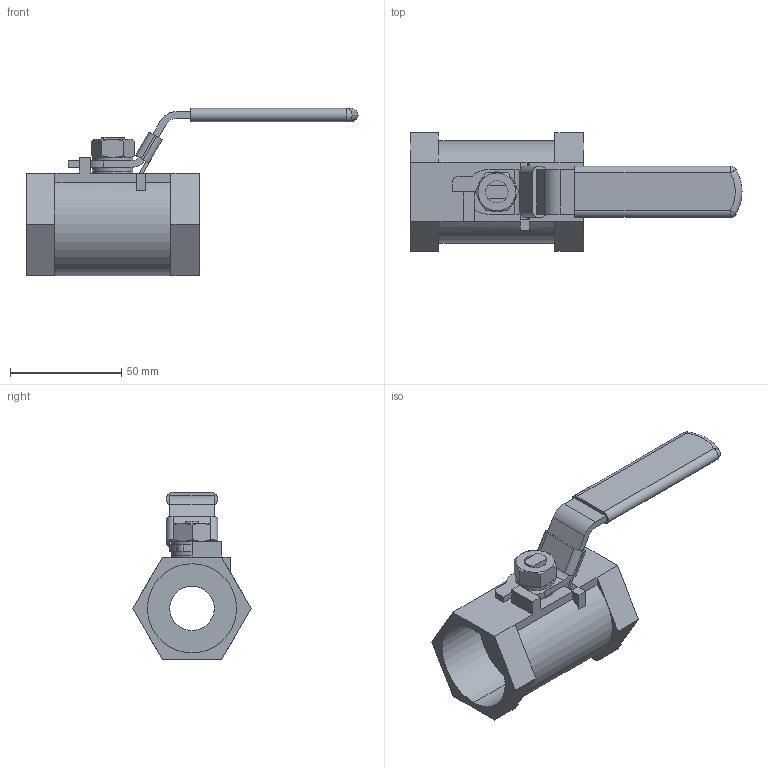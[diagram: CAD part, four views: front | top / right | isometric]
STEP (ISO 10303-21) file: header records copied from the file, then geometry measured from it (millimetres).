
FILE_DESCRIPTION( (''), '2;1');
FILE_NAME ('PC1276.13404.BLV-1S 32A_17570.stp','2025-09-19T13:29:28',(''),(''),'spGate 20.6.3 (****-****-****-****)','','');
FILE_SCHEMA (('AUTOMOTIVE_DESIGN'));
Length unit declared in the file: millimetre
Products named in the file (5): Assembly; CP_''_JIS B 1256 小形-部品等級A 1''_17239; CP_''_JIS B 1181 六角ナット 2種 上 ''_700; BLV-1S 32A 本体; BLV-1S 32A ハンドル
Assembly tree (6 placements, depth 2):
  Assembly
    CP_''_JIS B 1256 小形-部品等級A 1''_17239  x3
    CP_''_JIS B 1181 六角ナット 2種 上 ''_700
    BLV-1S 32A 本体
    BLV-1S 32A ハンドル
Bounding box: 149 x 53.12 x 75 mm (x, y, z)
Volume: 83012.7 mm3; surface area: 34383.2 mm2
Topology: 6 solids, 6 shells, 145 faces, 360 edges, 226 vertices
Faces by surface type: plane 90, cylinder 40, bspline 13, sphere 2
Entity records: 6969 total; most frequent: CARTESIAN_POINT 994, ORIENTED_EDGE 664, DIRECTION 654, COLOUR_RGB 469, PRESENTATION_STYLE_ASSIGNMENT 469, STYLED_ITEM 469, EDGE_CURVE 332, DRAUGHTING_PRE_DEFINED_CURVE_FONT 332
